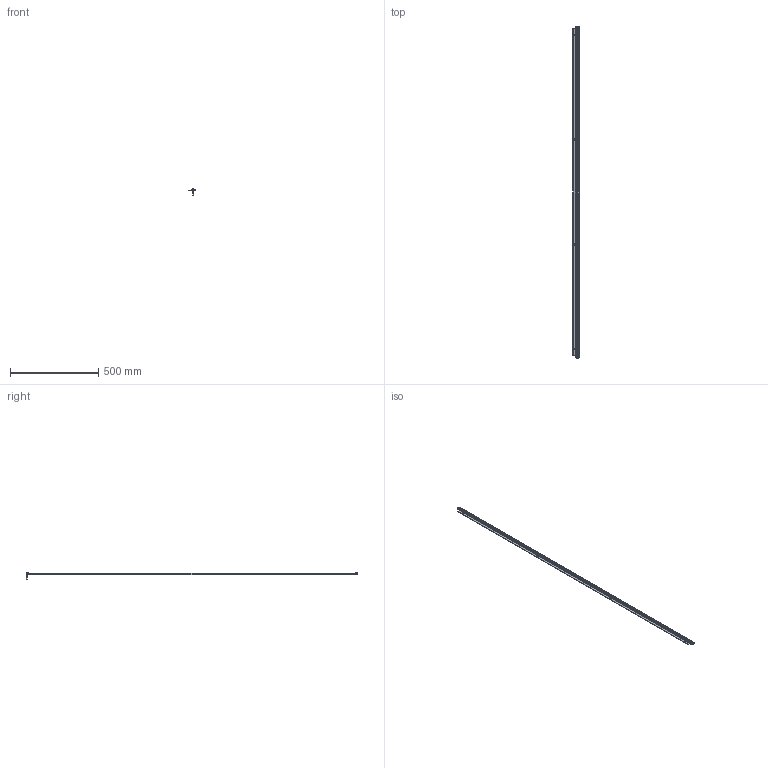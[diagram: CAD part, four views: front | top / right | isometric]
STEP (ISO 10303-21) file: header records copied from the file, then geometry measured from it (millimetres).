
FILE_DESCRIPTION (( 'STEP AP214' ), '1' );
FILE_NAME ('ILGA-L-K1a-1880mm.STEP', '2026-04-24T23:10:05', ( '' ), ( '' ), 'SwSTEP 2.0', 'SolidWorks 2025', '' );
FILE_SCHEMA (( 'AUTOMOTIVE_DESIGN' ));
Length unit declared in the file: millimetre
Products named in the file (1): ILGA-L-K1a-1880mm
Bounding box: 35 x 1880 x 34.2 mm (x, y, z)
Volume: 195195.1 mm3; surface area: 289539.6 mm2
Topology: 9 solids, 9 shells, 684 faces, 1778 edges, 1086 vertices
Faces by surface type: plane 293, cylinder 247, cone 60, torus 44, bspline 24, sphere 16
Entity records: 28741 total; most frequent: CARTESIAN_POINT 4449, DIRECTION 3632, ORIENTED_EDGE 3468, EDGE_CURVE 1734, AXIS2_PLACEMENT_3D 1357, VERTEX_POINT 1086, VECTOR 918, LINE 918
